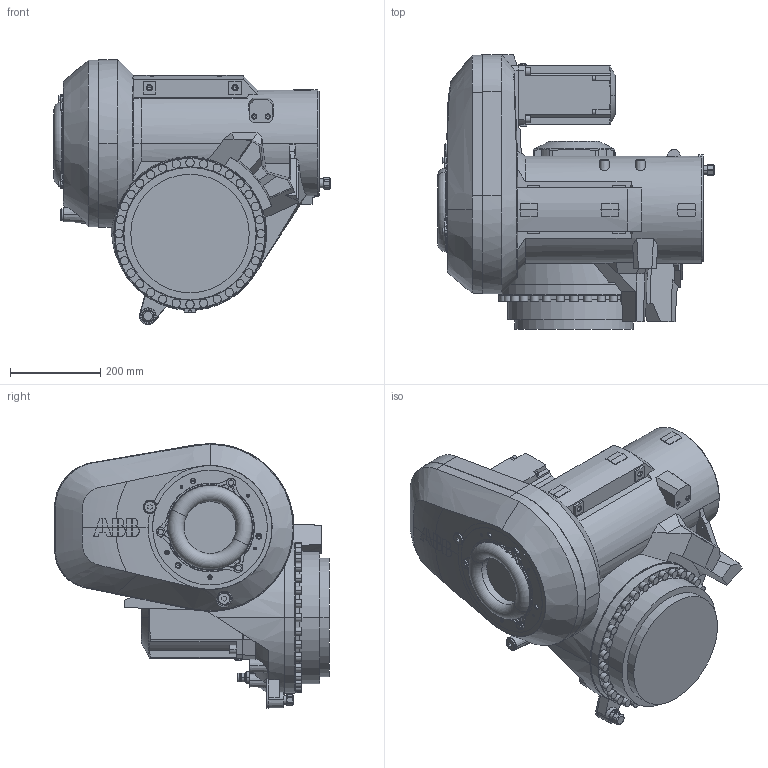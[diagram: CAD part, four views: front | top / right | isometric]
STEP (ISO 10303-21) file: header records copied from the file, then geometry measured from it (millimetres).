
FILE_DESCRIPTION (( 'STEP AP214' ), '1' );
FILE_NAME ('IRB6730S_All_OC_00_LINK03_CAD.step', '2026-05-26T10:34:07', ( '' ), ( '' ), 'SwSTEP 2.0', 'SolidWorks 2024', '' );
FILE_SCHEMA (( 'AUTOMOTIVE_DESIGN' ));
Length unit declared in the file: millimetre
Products named in the file (1): IRB6730S_All_OC_00_LINK03_CAD
Bounding box: 615 x 610 x 588.32 mm (x, y, z)
Volume: 55662914 mm3; surface area: 1850939.2 mm2
Topology: 1 solids, 5 shells, 1361 faces, 3614 edges, 2315 vertices
Faces by surface type: plane 614, cone 304, cylinder 298, bspline 104, torus 39, sphere 2
Entity records: 68933 total; most frequent: CARTESIAN_POINT 21439, ORIENTED_EDGE 7124, DIRECTION 6425, EDGE_CURVE 3562, AXIS2_PLACEMENT_3D 2408, VERTEX_POINT 2315, LINE 1609, VECTOR 1609
